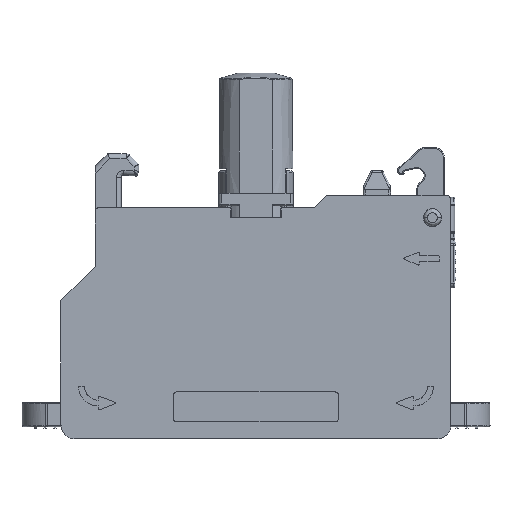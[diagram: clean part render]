
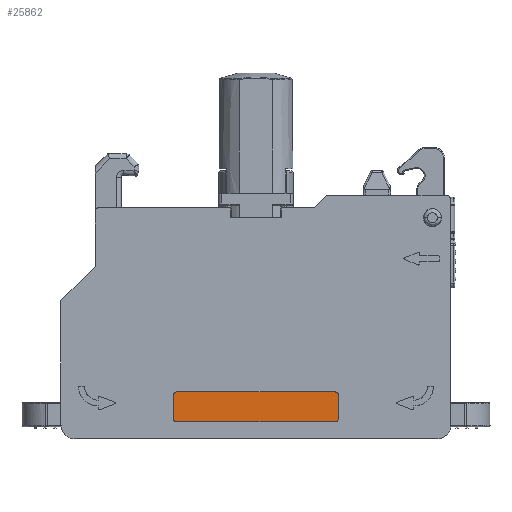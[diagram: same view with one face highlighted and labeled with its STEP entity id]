
A CAD part, front view. The second image highlights one B-rep face of the part: STEP entity #25862.
In plain terms, the highlighted planar face has unit normal (0, -1, 0).
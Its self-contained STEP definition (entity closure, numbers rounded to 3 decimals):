
#1458 = ORIENTED_EDGE ( 'NONE', *, *, #28353, .T. ) ;
#1623 = AXIS2_PLACEMENT_3D ( 'NONE', #4674, #41012, #63047 ) ;
#2023 = CARTESIAN_POINT ( 'NONE',  ( 2.406, -1.819, 12.754 ) ) ;
#2456 = CARTESIAN_POINT ( 'NONE',  ( 2.856, -1.819, 10.554 ) ) ;
#2766 = CARTESIAN_POINT ( 'NONE',  ( -14.144, -1.819, 12.754 ) ) ;
#4674 = CARTESIAN_POINT ( 'NONE',  ( 2.406, -1.819, 12.754 ) ) ;
#7062 = VERTEX_POINT ( 'NONE', #62781 ) ;
#7147 = AXIS2_PLACEMENT_3D ( 'NONE', #18536, #24098, #61187 ) ;
#7335 = ORIENTED_EDGE ( 'NONE', *, *, #61725, .T. ) ;
#7614 = AXIS2_PLACEMENT_3D ( 'NONE', #24412, #19869, #25101 ) ;
#8750 = CARTESIAN_POINT ( 'NONE',  ( 2.406, -1.819, 10.554 ) ) ;
#8832 = CARTESIAN_POINT ( 'NONE',  ( -14.144, -1.819, 12.754 ) ) ;
#11475 = LINE ( 'NONE', #42245, #40545 ) ;
#11929 = EDGE_CURVE ( 'NONE', #39744, #55066, #14274, .T. ) ;
#12346 = ORIENTED_EDGE ( 'NONE', *, *, #11929, .T. ) ;
#13971 = CARTESIAN_POINT ( 'NONE',  ( -14.144, -1.819, 10.554 ) ) ;
#14274 = LINE ( 'NONE', #2766, #15950 ) ;
#15338 = VERTEX_POINT ( 'NONE', #60022 ) ;
#15520 = EDGE_CURVE ( 'NONE', #56032, #32201, #59598, .T. ) ;
#15699 = DIRECTION ( 'NONE',  ( 0., 0., 1. ) ) ;
#15950 = VECTOR ( 'NONE', #24077, 1000. ) ;
#16095 = AXIS2_PLACEMENT_3D ( 'NONE', #8750, #30070, #47199 ) ;
#16306 = ORIENTED_EDGE ( 'NONE', *, *, #34223, .T. ) ;
#18536 = CARTESIAN_POINT ( 'NONE',  ( -13.694, -1.819, 12.754 ) ) ;
#19869 = DIRECTION ( 'NONE',  ( 0., -1., 0. ) ) ;
#20608 = CIRCLE ( 'NONE', #7147, 0.45 ) ;
#21753 = CARTESIAN_POINT ( 'NONE',  ( 2.406, -1.819, 10.104 ) ) ;
#21973 = DIRECTION ( 'NONE',  ( 1., 0., 0. ) ) ;
#22327 = AXIS2_PLACEMENT_3D ( 'NONE', #2023, #59730, #21973 ) ;
#23680 = EDGE_CURVE ( 'NONE', #57463, #15338, #11475, .T. ) ;
#24077 = DIRECTION ( 'NONE',  ( 0., 0., -1. ) ) ;
#24098 = DIRECTION ( 'NONE',  ( 0., -1., 0. ) ) ;
#24412 = CARTESIAN_POINT ( 'NONE',  ( -13.694, -1.819, 10.554 ) ) ;
#25101 = DIRECTION ( 'NONE',  ( 1., 0., 0. ) ) ;
#25636 = PLANE ( 'NONE',  #1623 ) ;
#25862 = ADVANCED_FACE ( 'NONE', ( #46275 ), #25636, .T. ) ;
#27074 = DIRECTION ( 'NONE',  ( -1., 0., 0. ) ) ;
#27507 = EDGE_CURVE ( 'NONE', #32201, #39744, #20608, .T. ) ;
#28353 = EDGE_CURVE ( 'NONE', #64495, #57463, #35084, .T. ) ;
#28941 = VECTOR ( 'NONE', #56151, 1000. ) ;
#30070 = DIRECTION ( 'NONE',  ( 0., -1., 0. ) ) ;
#32201 = VERTEX_POINT ( 'NONE', #63345 ) ;
#34223 = EDGE_CURVE ( 'NONE', #7062, #64495, #44961, .T. ) ;
#34458 = CARTESIAN_POINT ( 'NONE',  ( -13.694, -1.819, 10.104 ) ) ;
#35084 = CIRCLE ( 'NONE', #16095, 0.45 ) ;
#35671 = VECTOR ( 'NONE', #27074, 1000. ) ;
#39037 = ORIENTED_EDGE ( 'NONE', *, *, #27507, .T. ) ;
#39744 = VERTEX_POINT ( 'NONE', #8832 ) ;
#40545 = VECTOR ( 'NONE', #15699, 1000. ) ;
#41012 = DIRECTION ( 'NONE',  ( 0., -1., 0. ) ) ;
#41202 = CARTESIAN_POINT ( 'NONE',  ( 2.406, -1.819, 13.204 ) ) ;
#41486 = EDGE_CURVE ( 'NONE', #55066, #7062, #62304, .T. ) ;
#42200 = ORIENTED_EDGE ( 'NONE', *, *, #15520, .T. ) ;
#42245 = CARTESIAN_POINT ( 'NONE',  ( 2.856, -1.819, 10.554 ) ) ;
#44674 = CIRCLE ( 'NONE', #22327, 0.45 ) ;
#44961 = LINE ( 'NONE', #34458, #28941 ) ;
#46275 = FACE_OUTER_BOUND ( 'NONE', #57978, .T. ) ;
#47199 = DIRECTION ( 'NONE',  ( 1., 0., 0. ) ) ;
#51380 = ORIENTED_EDGE ( 'NONE', *, *, #23680, .T. ) ;
#55066 = VERTEX_POINT ( 'NONE', #13971 ) ;
#56032 = VERTEX_POINT ( 'NONE', #41202 ) ;
#56151 = DIRECTION ( 'NONE',  ( 1., 0., 0. ) ) ;
#57100 = ORIENTED_EDGE ( 'NONE', *, *, #41486, .T. ) ;
#57463 = VERTEX_POINT ( 'NONE', #2456 ) ;
#57978 = EDGE_LOOP ( 'NONE', ( #7335, #42200, #39037, #12346, #57100, #16306, #1458, #51380 ) ) ;
#58919 = CARTESIAN_POINT ( 'NONE',  ( 2.406, -1.819, 13.204 ) ) ;
#59598 = LINE ( 'NONE', #58919, #35671 ) ;
#59730 = DIRECTION ( 'NONE',  ( 0., -1., 0. ) ) ;
#60022 = CARTESIAN_POINT ( 'NONE',  ( 2.856, -1.819, 12.754 ) ) ;
#61187 = DIRECTION ( 'NONE',  ( 1., 0., 0. ) ) ;
#61725 = EDGE_CURVE ( 'NONE', #15338, #56032, #44674, .T. ) ;
#62304 = CIRCLE ( 'NONE', #7614, 0.45 ) ;
#62781 = CARTESIAN_POINT ( 'NONE',  ( -13.694, -1.819, 10.104 ) ) ;
#63047 = DIRECTION ( 'NONE',  ( 1., 0., 0. ) ) ;
#63345 = CARTESIAN_POINT ( 'NONE',  ( -13.694, -1.819, 13.204 ) ) ;
#64495 = VERTEX_POINT ( 'NONE', #21753 ) ;
